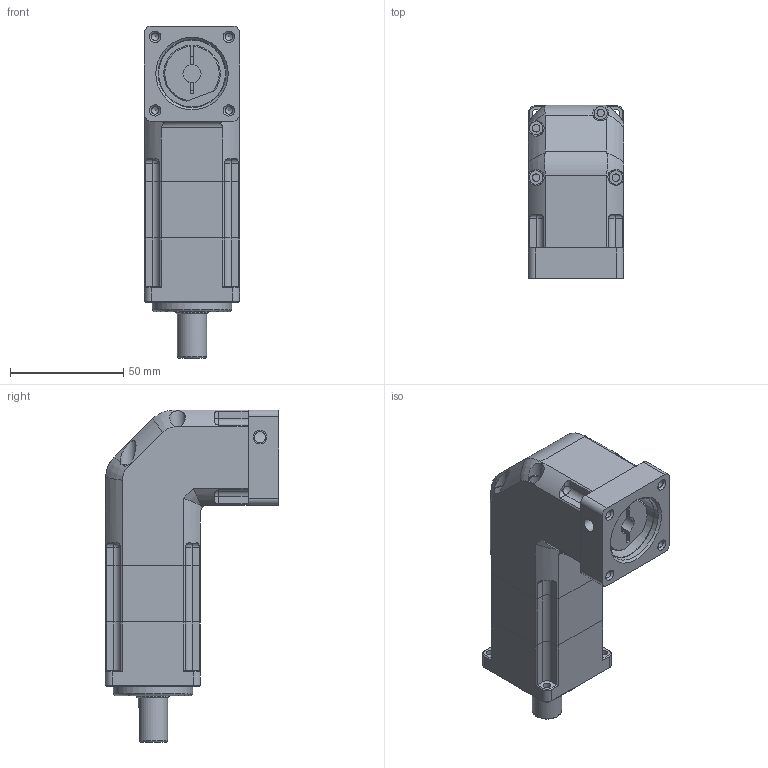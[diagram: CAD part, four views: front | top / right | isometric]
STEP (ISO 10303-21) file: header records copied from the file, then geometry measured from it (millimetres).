
FILE_DESCRIPTION((''),'2;1');
FILE_NAME('C:\Documents and Settings\nagyu\바탕 화면\유성감속기 3D\SPL042\SPL042S015~100KA.stp','2009-10-27T09:42:16',('nagyu'),(''),'Autodesk Inventor 2010','Autodesk Inventor 2010','');
FILE_SCHEMA(('AUTOMOTIVE_DESIGN { 1 0 10303 214 1 1 1 1 }'));
Length unit declared in the file: millimetre
Products named in the file (5): SPL042 2단; SPI042; 42각 GEARCASE; 42각 INPUT ADAPTER FLANGE; 42각 CARRIER CASE
Assembly tree (4 placements, depth 2):
  SPL042 2단
    SPI042
    42각 GEARCASE
    42각 INPUT ADAPTER FLANGE
    42각 CARRIER CASE
Bounding box: 42 x 76.5 x 146.6 mm (x, y, z)
Volume: 207204.9 mm3; surface area: 50728 mm2
Topology: 4 solids, 4 shells, 287 faces, 755 edges, 491 vertices
Faces by surface type: plane 119, cylinder 92, bspline 58, cone 15, torus 3
Full cylindrical faces by diameter (mm): 5.9 x2, 6 x2, 8 x1, 13 x1, 14.2 x1, 15 x1, 32 x2, 35 x1, 37 x2, 38 x1
Entity records: 9821 total; most frequent: CARTESIAN_POINT 3069, ORIENTED_EDGE 1318, DIRECTION 1312, EDGE_CURVE 659, AXIS2_PLACEMENT_3D 491, VERTEX_POINT 454, EDGE_LOOP 383, VECTOR 330
